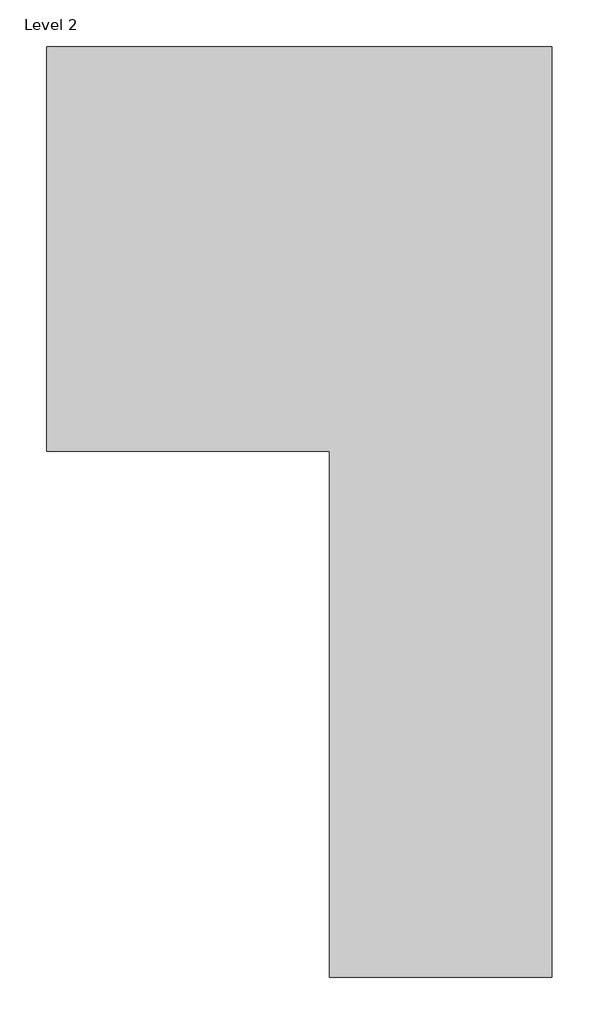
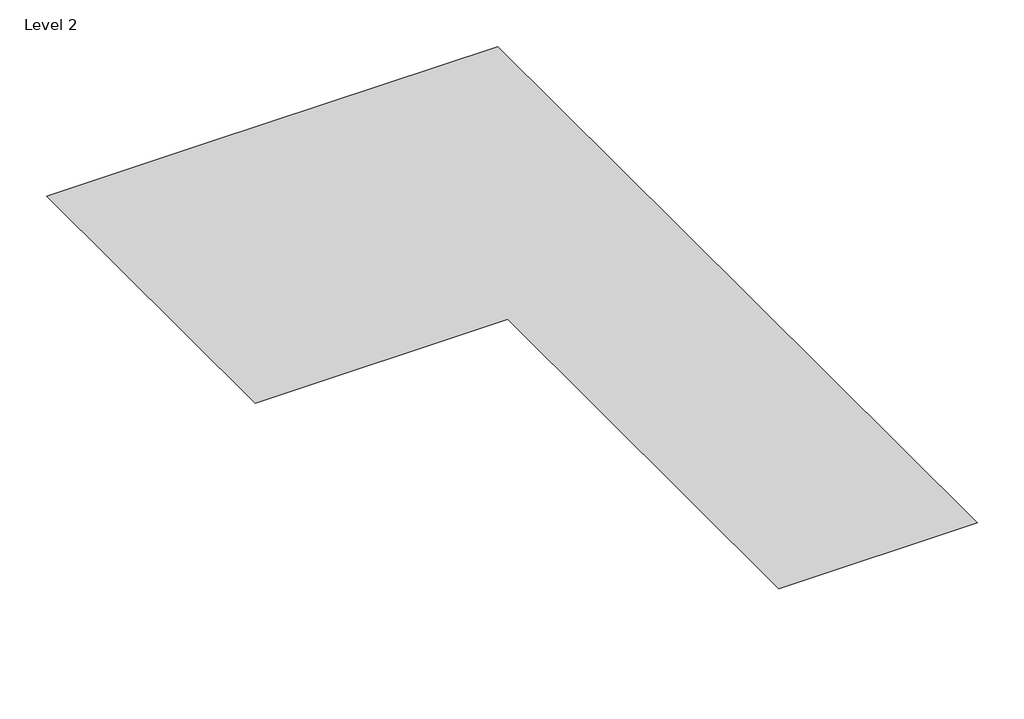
# One storey: 1 proxy.
"""IFC4 building model written with IfcOpenShell, lengths in millimetres."""

import ifcopenshell
import ifcopenshell.guid

model = None  # the IFC model being written
_history = None  # IfcOwnerHistory: only IFC2X3 demands one
_inside = {}  # id of a spatial element -> (the spatial element, [elements in it])
_under = {}  # id of a project, library or spatial element -> (it, [spatial elements below it])
_declared = {}  # id of a project -> (the project, [libraries it declares])
_typed = {}  # id of a type object -> (the type object, [elements of that type])
_made_of = {}  # id of a material, layer set ... -> (it, [elements and type objects made of it])


def new_model(schema):
    """Start an empty IFC model of exactly this schema.

    Asked for "IFC4X3", IfcOpenShell would pick the latest addendum, in which some entities
    have other attributes; the version numbers below select the first issue.
    IFC2X3 requires an IfcOwnerHistory on every rooted entity: one is made here for all.
    """
    global model, _history
    if schema == "IFC4X3":
        model = ifcopenshell.file(schema_version=(4, 3, 0, 0))
    else:
        model = ifcopenshell.file(schema=schema)
    _inside.clear()
    _under.clear()
    _declared.clear()
    _typed.clear()
    _made_of.clear()
    _history = None
    if model.schema == "IFC2X3":
        org = make("IfcOrganization", Name="unknown")
        user = make(
            "IfcPersonAndOrganization",
            ThePerson=make("IfcPerson", FamilyName="unknown"),
            TheOrganization=org,
        )
        app = make(
            "IfcApplication",
            ApplicationDeveloper=org,
            Version="unknown",
            ApplicationFullName="unknown",
            ApplicationIdentifier="unknown",
        )
        _history = make(
            "IfcOwnerHistory",
            OwningUser=user,
            OwningApplication=app,
            ChangeAction="ADDED",
            CreationDate=0,
        )
    return model


def make(cls, **values):
    """One entity of the class cls with the attributes given. An attribute that is None is left unset."""
    return model.create_entity(
        cls, **{name: value for name, value in values.items() if value is not None}
    )


def rooted(cls, **values):
    """An entity with a GlobalId (a new one), such as an element, a storey or a relation."""
    return make(cls, GlobalId=ifcopenshell.guid.new(), OwnerHistory=_history, **values)


def si_unit(unit_type, name, prefix=None):
    """IfcSIUnit, for example si_unit("LENGTHUNIT", "METRE", prefix="MILLI")."""
    return make("IfcSIUnit", UnitType=unit_type, Prefix=prefix, Name=name)


def assignment(units):
    """IfcUnitAssignment: the units of a project."""
    return None if units is None else make("IfcUnitAssignment", Units=units)


def point(xyz):
    """IfcCartesianPoint."""
    return None if xyz is None else make("IfcCartesianPoint", Coordinates=xyz)


def direction(xyz):
    """IfcDirection."""
    return None if xyz is None else make("IfcDirection", DirectionRatios=xyz)


def frame(location, z_axis=None, x_axis=None):
    """IfcAxis2Placement3D, a coordinate frame: its origin and axes. An axis left out is left unset."""
    return make(
        "IfcAxis2Placement3D",
        Location=point(location),
        Axis=direction(z_axis),
        RefDirection=direction(x_axis),
    )


def origin():
    """The frame at (0, 0, 0) with its axes left unset."""
    return frame((0.0, 0.0, 0.0))


def place(relative_to, where):
    """IfcLocalPlacement: puts the frame where relative to a parent placement (None: the world)."""
    return make(
        "IfcLocalPlacement", PlacementRelTo=relative_to, RelativePlacement=where
    )


def context(
    kind, dimensions, precision=None, world=None, true_north=None, identifier=None
):
    """IfcGeometricRepresentationContext, for example the 3D "Model" context."""
    return make(
        "IfcGeometricRepresentationContext",
        ContextIdentifier=identifier,
        ContextType=kind,
        CoordinateSpaceDimension=dimensions,
        Precision=precision,
        WorldCoordinateSystem=world,
        TrueNorth=true_north,
    )


def project(units=None, contexts=None):
    """IfcProject with its units and contexts."""
    return rooted(
        "IfcProject",
        Name="project",
        RepresentationContexts=contexts,
        UnitsInContext=assignment(units),
    )


def spatial(cls, under=None, at=None, **own):
    """A site, building, storey or space (cls), placed at a placement, below another one or the project."""
    s = rooted(cls, ObjectPlacement=at, **own)
    if under is not None:
        _under.setdefault(under.id(), (under, []))[1].append(s)
    return s


def point_list(points):
    """IfcCartesianPointList2D or 3D."""
    cls = (
        "IfcCartesianPointList2D" if len(points[0]) == 2 else "IfcCartesianPointList3D"
    )
    return make(cls, CoordList=points)


def triangles(points, corners, closed=None, point_numbers=None):
    """IfcTriangulatedFaceSet: each triangle names its three corners, points numbered from 1."""
    return make(
        "IfcTriangulatedFaceSet",
        Coordinates=point_list(points),
        Closed=closed,
        CoordIndex=corners,
        PnIndex=point_numbers,
    )


def shape(context_of_items, identifier, shape_type, items):
    """IfcShapeRepresentation: the items that make up one representation, for example the "Body"."""
    return make(
        "IfcShapeRepresentation",
        ContextOfItems=context_of_items,
        RepresentationIdentifier=identifier,
        RepresentationType=shape_type,
        Items=items,
    )


def made_of(thing, what):
    """Note that an element or type object is made of a material, layer set ...; save() writes the relation."""
    if what is not None:
        _made_of.setdefault(what.id(), (what, []))[1].append(thing)
    return thing


def element(
    cls,
    number,
    at=None,
    inside=None,
    cuts=None,
    type_object=None,
    material=None,
    context=None,
    identifier="Body",
    shape_type=None,
    held_by="IfcProductDefinitionShape",
    body=None,
    shapes=None,
    **own,
):
    """One element of the class cls, such as IfcWall. Its Tag is "e" and its number.

    at: its placement. inside: the storey or other place that contains it. cuts: it is an
    opening in that element (IfcRelVoidsElement). A single representation is given by context,
    identifier, shape_type and body (its items); several are given by shapes. held_by: the class
    of the entity that holds the representations. save() writes the other relations.
    """
    e = rooted(cls, Tag="e%d" % number, ObjectPlacement=at, **own)
    if body is not None:
        shapes = [shape(context, identifier, shape_type, body)]
    if shapes is not None:
        e.Representation = make(held_by, Representations=shapes)
    if inside is not None:
        _inside.setdefault(inside.id(), (inside, []))[1].append(e)
    if cuts is not None:
        rooted(
            "IfcRelVoidsElement", RelatingBuildingElement=cuts, RelatedOpeningElement=e
        )
    if type_object is not None:
        _typed.setdefault(type_object.id(), (type_object, []))[1].append(e)
    return made_of(e, material)


def aggregate(whole, parts):
    """IfcRelAggregates: a whole, such as a stair, and the parts it consists of."""
    return rooted("IfcRelAggregates", RelatingObject=whole, RelatedObjects=parts)


def save(model, path):
    """Write the relations noted so far, then the file.

    IfcRelAggregates (storeys below a building ...), IfcRelContainedInSpatialStructure (elements
    in a storey), IfcRelDefinesByType, IfcRelAssociatesMaterial and IfcRelDeclares: one each for
    every whole, place, type object, material and project.
    """
    for whole, parts in _under.values():
        aggregate(whole, parts)
    for where, things in _inside.values():
        rooted(
            "IfcRelContainedInSpatialStructure",
            RelatedElements=things,
            RelatingStructure=where,
        )
    for kind, things in _typed.values():
        rooted("IfcRelDefinesByType", RelatedObjects=things, RelatingType=kind)
    for what, things in _made_of.values():
        rooted("IfcRelAssociatesMaterial", RelatedObjects=things, RelatingMaterial=what)
    for by, libraries in _declared.values():
        rooted("IfcRelDeclares", RelatingContext=by, RelatedDefinitions=libraries)
    model.write(path)


model = new_model("IFC4")

# Units and contexts
model_context = context("Model", 3, world=origin())
ifc_project = project(units=[si_unit("LENGTHUNIT", "METRE", prefix="MILLI")], contexts=[model_context])

# Site, building, storey
site = spatial("IfcSite", under=ifc_project)
building = spatial("IfcBuilding", under=site)
storey = spatial("IfcBuildingStorey", under=building, Name="Level 2", Elevation=3048.0)

# Proxy
placement = place(None, origin())
element("IfcBuildingElementProxy", 1, Name="Building Element Proxy", at=placement, inside=storey, context=model_context, shape_type="Tessellation", body=[
    triangles([(15314.1210571, 6227.9024139, 3048.0), (12885.6041748, 6227.9024139, 3048.0), (11504.1210571, 6227.9024139, 3048.0), (11504.1210571, 3179.9024139, 3048.0), (13637.7210571, 3179.9024139, 3048.0), (13637.7210571, -782.4977314, 3048.0), (15314.1210571, -782.4977314, 3048.0), (15314.1210571, 3552.416304, 3048.0)], [[4, 5, 2], [2, 3, 4], [5, 1, 2], [7, 8, 5], [1, 5, 8], [5, 6, 7]], closed=False),
])

save(model, "model.ifc")
